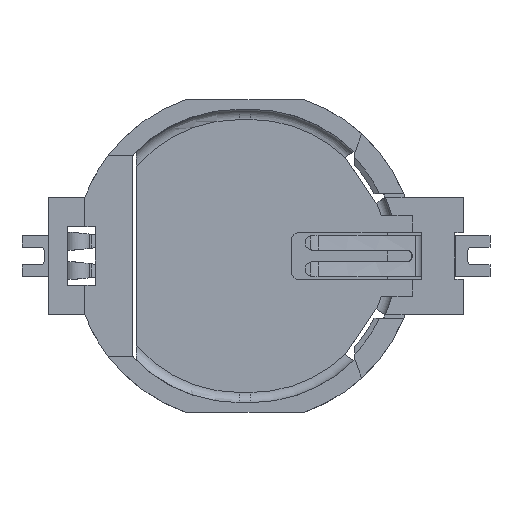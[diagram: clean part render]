
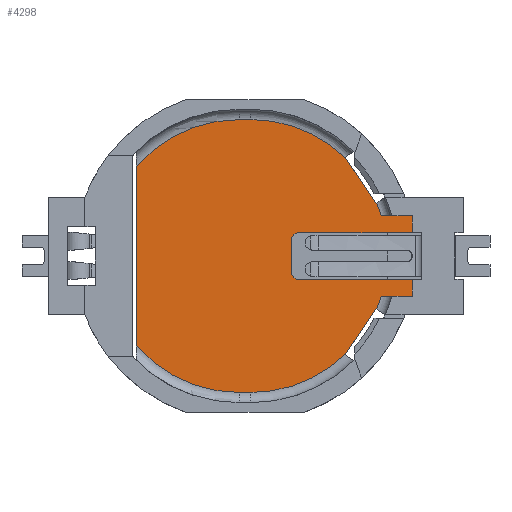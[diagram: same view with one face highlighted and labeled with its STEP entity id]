
A CAD part, top view. The second image highlights one B-rep face of the part: STEP entity #4298.
In plain terms, the highlighted planar face has unit normal (0, 0, 1).
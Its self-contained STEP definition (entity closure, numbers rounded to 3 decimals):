
#554=DIRECTION('',(-1.,0.,0.));
#555=VECTOR('',#554,0.8);
#556=CARTESIAN_POINT('',(12.058,20.55,-3.6));
#557=LINE('',#556,#555);
#562=DIRECTION('',(-0.559,-0.829,0.));
#563=VECTOR('',#562,3.718);
#564=CARTESIAN_POINT('',(20.611,7.659,-3.6));
#565=LINE('',#564,#563);
#566=CARTESIAN_POINT('',(12.058,11.25,-3.6));
#567=DIRECTION('',(0.,0.,-1.));
#568=DIRECTION('',(0.696,-0.718,0.));
#569=AXIS2_PLACEMENT_3D('',#566,#567,#568);
#571=CARTESIAN_POINT('',(11.258,11.25,-3.6));
#572=DIRECTION('',(0.,0.,-1.));
#573=DIRECTION('',(0.,-1.,0.));
#574=AXIS2_PLACEMENT_3D('',#571,#572,#573);
#576=DIRECTION('',(0.,1.,0.));
#577=VECTOR('',#576,12.246);
#578=CARTESIAN_POINT('',(4.258,5.127,-3.6));
#579=LINE('',#578,#577);
#580=CARTESIAN_POINT('',(11.258,11.25,-3.6));
#581=DIRECTION('',(0.,0.,-1.));
#582=DIRECTION('',(-0.753,0.658,0.));
#583=AXIS2_PLACEMENT_3D('',#580,#581,#582);
#585=CARTESIAN_POINT('',(12.058,11.25,-3.6));
#586=DIRECTION('',(0.,0.,-1.));
#587=DIRECTION('',(0.,1.,0.));
#588=AXIS2_PLACEMENT_3D('',#585,#586,#587);
#590=DIRECTION('',(0.559,-0.829,0.));
#591=VECTOR('',#590,3.718);
#592=CARTESIAN_POINT('',(18.534,17.925,-3.6));
#593=LINE('',#592,#591);
#594=DIRECTION('',(0.829,0.559,0.));
#595=VECTOR('',#594,0.024);
#596=CARTESIAN_POINT('',(20.611,14.841,-3.6));
#597=LINE('',#596,#595);
#598=CARTESIAN_POINT('',(12.058,11.25,-3.6));
#599=DIRECTION('',(0.,0.,-1.));
#600=DIRECTION('',(0.922,0.388,0.));
#601=AXIS2_PLACEMENT_3D('',#598,#599,#600);
#603=DIRECTION('',(1.,0.,0.));
#604=VECTOR('',#603,2.116);
#605=CARTESIAN_POINT('',(20.942,14.,-3.6));
#606=LINE('',#605,#604);
#607=DIRECTION('',(0.,-1.,0.));
#608=VECTOR('',#607,1.15);
#609=CARTESIAN_POINT('',(23.058,14.,-3.6));
#610=LINE('',#609,#608);
#611=CARTESIAN_POINT('',(15.318,12.35,-3.6));
#612=DIRECTION('',(0.,0.,1.));
#613=DIRECTION('',(0.,1.,0.));
#614=AXIS2_PLACEMENT_3D('',#611,#612,#613);
#616=DIRECTION('',(0.,-1.,0.));
#617=VECTOR('',#616,2.2);
#618=CARTESIAN_POINT('',(14.818,12.35,-3.6));
#619=LINE('',#618,#617);
#620=CARTESIAN_POINT('',(15.318,10.15,-3.6));
#621=DIRECTION('',(0.,0.,1.));
#622=DIRECTION('',(-1.,0.,0.));
#623=AXIS2_PLACEMENT_3D('',#620,#621,#622);
#625=DIRECTION('',(-1.,0.,0.));
#626=VECTOR('',#625,2.116);
#627=CARTESIAN_POINT('',(23.058,8.5,-3.6));
#628=LINE('',#627,#626);
#629=CARTESIAN_POINT('',(12.058,11.25,-3.6));
#630=DIRECTION('',(0.,0.,-1.));
#631=DIRECTION('',(0.955,-0.296,0.));
#632=AXIS2_PLACEMENT_3D('',#629,#630,#631);
#634=DIRECTION('',(-0.829,0.559,0.));
#635=VECTOR('',#634,0.024);
#636=CARTESIAN_POINT('',(20.631,7.646,-3.6));
#637=LINE('',#636,#635);
#766=DIRECTION('',(1.,0.,0.));
#767=VECTOR('',#766,7.74);
#768=CARTESIAN_POINT('',(15.318,12.85,-3.6));
#769=LINE('',#768,#767);
#794=DIRECTION('',(-1.,0.,0.));
#795=VECTOR('',#794,7.74);
#796=CARTESIAN_POINT('',(23.058,9.65,-3.6));
#797=LINE('',#796,#795);
#802=DIRECTION('',(0.,1.,0.));
#803=VECTOR('',#802,1.15);
#804=CARTESIAN_POINT('',(23.058,8.5,-3.6));
#805=LINE('',#804,#803);
#2157=DIRECTION('',(1.,0.,0.));
#2158=VECTOR('',#2157,0.8);
#2159=CARTESIAN_POINT('',(11.258,1.95,-3.6));
#2160=LINE('',#2159,#2158);
#3032=CARTESIAN_POINT('',(11.258,1.95,-3.6));
#3033=CARTESIAN_POINT('',(12.058,1.95,-3.6));
#3034=VERTEX_POINT('',#3032);
#3035=VERTEX_POINT('',#3033);
#3036=CARTESIAN_POINT('',(20.611,7.659,-3.6));
#3037=CARTESIAN_POINT('',(18.534,4.575,-3.6));
#3038=VERTEX_POINT('',#3036);
#3039=VERTEX_POINT('',#3037);
#3040=CARTESIAN_POINT('',(4.258,5.127,-3.6));
#3041=VERTEX_POINT('',#3040);
#3042=CARTESIAN_POINT('',(4.258,17.373,-3.6));
#3043=VERTEX_POINT('',#3042);
#3044=CARTESIAN_POINT('',(11.258,20.55,-3.6));
#3045=VERTEX_POINT('',#3044);
#3046=CARTESIAN_POINT('',(12.058,20.55,-3.6));
#3047=VERTEX_POINT('',#3046);
#3048=CARTESIAN_POINT('',(18.534,17.925,-3.6));
#3049=VERTEX_POINT('',#3048);
#3050=CARTESIAN_POINT('',(20.611,14.841,-3.6));
#3051=VERTEX_POINT('',#3050);
#3052=CARTESIAN_POINT('',(20.631,14.854,-3.6));
#3053=VERTEX_POINT('',#3052);
#3054=CARTESIAN_POINT('',(20.942,14.,-3.6));
#3055=VERTEX_POINT('',#3054);
#3056=CARTESIAN_POINT('',(23.058,14.,-3.6));
#3057=VERTEX_POINT('',#3056);
#3058=CARTESIAN_POINT('',(23.058,12.85,-3.6));
#3059=VERTEX_POINT('',#3058);
#3060=CARTESIAN_POINT('',(15.318,12.85,-3.6));
#3061=VERTEX_POINT('',#3060);
#3062=CARTESIAN_POINT('',(14.818,12.35,-3.6));
#3063=VERTEX_POINT('',#3062);
#3064=CARTESIAN_POINT('',(14.818,10.15,-3.6));
#3065=VERTEX_POINT('',#3064);
#3066=CARTESIAN_POINT('',(15.318,9.65,-3.6));
#3067=VERTEX_POINT('',#3066);
#3068=CARTESIAN_POINT('',(23.058,9.65,-3.6));
#3069=VERTEX_POINT('',#3068);
#3070=CARTESIAN_POINT('',(23.058,8.5,-3.6));
#3071=VERTEX_POINT('',#3070);
#3072=CARTESIAN_POINT('',(20.942,8.5,-3.6));
#3073=VERTEX_POINT('',#3072);
#3074=CARTESIAN_POINT('',(20.631,7.646,-3.6));
#3075=VERTEX_POINT('',#3074);
#4250=CARTESIAN_POINT('',(13.658,11.25,-3.6));
#4251=DIRECTION('',(0.,0.,1.));
#4252=DIRECTION('',(0.,1.,0.));
#4253=AXIS2_PLACEMENT_3D('',#4250,#4251,#4252);
#4254=PLANE('',#4253);
#4256=ORIENTED_EDGE('',*,*,#4255,.T.);
#4258=ORIENTED_EDGE('',*,*,#4257,.T.);
#4260=ORIENTED_EDGE('',*,*,#4259,.F.);
#4262=ORIENTED_EDGE('',*,*,#4261,.T.);
#4263=ORIENTED_EDGE('',*,*,#4212,.T.);
#4264=ORIENTED_EDGE('',*,*,#4229,.T.);
#4265=ORIENTED_EDGE('',*,*,#4240,.F.);
#4267=ORIENTED_EDGE('',*,*,#4266,.T.);
#4269=ORIENTED_EDGE('',*,*,#4268,.T.);
#4271=ORIENTED_EDGE('',*,*,#4270,.T.);
#4273=ORIENTED_EDGE('',*,*,#4272,.T.);
#4275=ORIENTED_EDGE('',*,*,#4274,.T.);
#4277=ORIENTED_EDGE('',*,*,#4276,.T.);
#4279=ORIENTED_EDGE('',*,*,#4278,.F.);
#4281=ORIENTED_EDGE('',*,*,#4280,.T.);
#4283=ORIENTED_EDGE('',*,*,#4282,.T.);
#4285=ORIENTED_EDGE('',*,*,#4284,.T.);
#4287=ORIENTED_EDGE('',*,*,#4286,.F.);
#4289=ORIENTED_EDGE('',*,*,#4288,.F.);
#4291=ORIENTED_EDGE('',*,*,#4290,.T.);
#4293=ORIENTED_EDGE('',*,*,#4292,.T.);
#4295=ORIENTED_EDGE('',*,*,#4294,.T.);
#4296=EDGE_LOOP('',(#4256,#4258,#4260,#4262,#4263,#4264,#4265,#4267,#4269,#4271,
#4273,#4275,#4277,#4279,#4281,#4283,#4285,#4287,#4289,#4291,#4293,#4295));
#4297=FACE_OUTER_BOUND('',#4296,.F.);
#4298=ADVANCED_FACE('',(#4297),#4254,.T.);
#570=CIRCLE('',#569,9.3);
#575=CIRCLE('',#574,9.3);
#584=CIRCLE('',#583,9.3);
#589=CIRCLE('',#588,9.3);
#602=CIRCLE('',#601,9.3);
#615=CIRCLE('',#614,0.5);
#624=CIRCLE('',#623,0.5);
#633=CIRCLE('',#632,9.3);
#4212=EDGE_CURVE('',#3041,#3043,#579,.T.);
#4229=EDGE_CURVE('',#3043,#3045,#584,.T.);
#4240=EDGE_CURVE('',#3047,#3045,#557,.T.);
#4255=EDGE_CURVE('',#3038,#3039,#565,.T.);
#4257=EDGE_CURVE('',#3039,#3035,#570,.T.);
#4259=EDGE_CURVE('',#3034,#3035,#2160,.T.);
#4261=EDGE_CURVE('',#3034,#3041,#575,.T.);
#4266=EDGE_CURVE('',#3047,#3049,#589,.T.);
#4268=EDGE_CURVE('',#3049,#3051,#593,.T.);
#4270=EDGE_CURVE('',#3051,#3053,#597,.T.);
#4272=EDGE_CURVE('',#3053,#3055,#602,.T.);
#4274=EDGE_CURVE('',#3055,#3057,#606,.T.);
#4276=EDGE_CURVE('',#3057,#3059,#610,.T.);
#4278=EDGE_CURVE('',#3061,#3059,#769,.T.);
#4280=EDGE_CURVE('',#3061,#3063,#615,.T.);
#4282=EDGE_CURVE('',#3063,#3065,#619,.T.);
#4284=EDGE_CURVE('',#3065,#3067,#624,.T.);
#4286=EDGE_CURVE('',#3069,#3067,#797,.T.);
#4288=EDGE_CURVE('',#3071,#3069,#805,.T.);
#4290=EDGE_CURVE('',#3071,#3073,#628,.T.);
#4292=EDGE_CURVE('',#3073,#3075,#633,.T.);
#4294=EDGE_CURVE('',#3075,#3038,#637,.T.);
